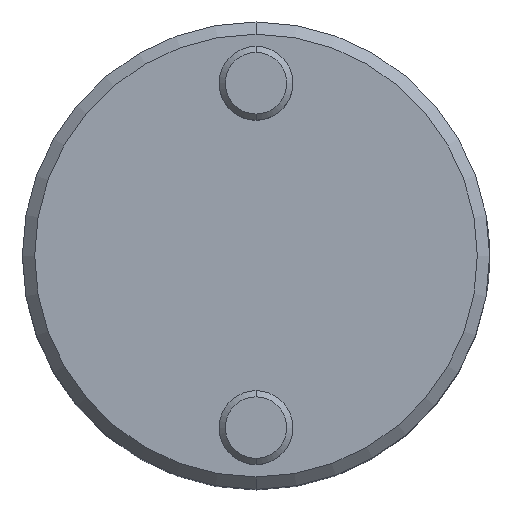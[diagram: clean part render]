
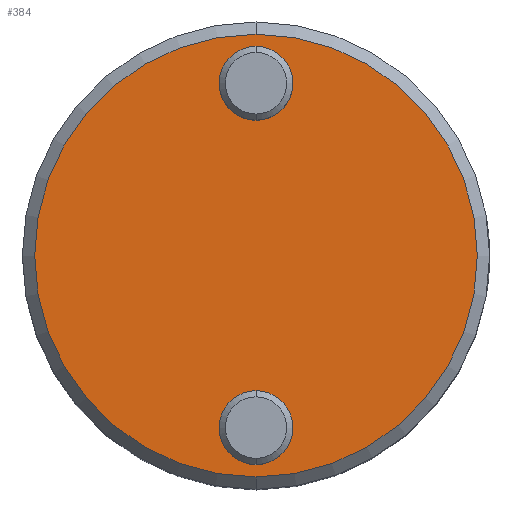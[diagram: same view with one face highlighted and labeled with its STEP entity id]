
A CAD part, top view. The second image highlights one B-rep face of the part: STEP entity #384.
In plain terms, the highlighted planar face has unit normal (0, 0, 1).
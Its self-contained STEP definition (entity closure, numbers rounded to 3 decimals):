
#1=CARTESIAN_POINT('',(0.,0.,
0.));
#2=DIRECTION('',(0.,0.,1.));
#3=DIRECTION('',(0.,1.,0.));
#4=AXIS2_PLACEMENT_3D('',#1,#2,#3);
#6=CARTESIAN_POINT('',(0.,0.,
0.));
#7=DIRECTION('',(0.,0.,1.));
#8=DIRECTION('',(0.,-1.,0.));
#9=AXIS2_PLACEMENT_3D('',#6,#7,#8);
#11=CARTESIAN_POINT('',(0.,14.,0.));
#12=DIRECTION('',(0.,0.,1.));
#13=DIRECTION('',(0.,1.,0.));
#14=AXIS2_PLACEMENT_3D('',#11,#12,#13);
#16=CARTESIAN_POINT('',(0.,14.,0.));
#17=DIRECTION('',(0.,0.,1.));
#18=DIRECTION('',(0.,-1.,0.));
#19=AXIS2_PLACEMENT_3D('',#16,#17,#18);
#21=CARTESIAN_POINT('',(0.,-14.,0.));
#22=DIRECTION('',(0.,0.,1.));
#23=DIRECTION('',(0.,1.,0.));
#24=AXIS2_PLACEMENT_3D('',#21,#22,#23);
#26=CARTESIAN_POINT('',(0.,-14.,0.));
#27=DIRECTION('',(0.,0.,1.));
#28=DIRECTION('',(0.,-1.,0.));
#29=AXIS2_PLACEMENT_3D('',#26,#27,#28);
#311=CARTESIAN_POINT('',(0.,18.,0.));
#312=CARTESIAN_POINT('',(0.,-18.,0.));
#313=VERTEX_POINT('',#311);
#314=VERTEX_POINT('',#312);
#337=CARTESIAN_POINT('',(0.,17.,0.));
#338=CARTESIAN_POINT('',(0.,11.,0.));
#339=VERTEX_POINT('',#337);
#340=VERTEX_POINT('',#338);
#341=CARTESIAN_POINT('',(0.,-11.,0.));
#342=CARTESIAN_POINT('',(0.,-17.,0.));
#343=VERTEX_POINT('',#341);
#344=VERTEX_POINT('',#342);
#361=CARTESIAN_POINT('',(0.,0.,0.));
#362=DIRECTION('',(0.,0.,-1.));
#363=DIRECTION('',(0.,-1.,0.));
#364=AXIS2_PLACEMENT_3D('',#361,#362,#363);
#365=PLANE('',#364);
#367=ORIENTED_EDGE('',*,*,#366,.F.);
#369=ORIENTED_EDGE('',*,*,#368,.F.);
#370=EDGE_LOOP('',(#367,#369));
#371=FACE_OUTER_BOUND('',#370,.F.);
#373=ORIENTED_EDGE('',*,*,#372,.T.);
#375=ORIENTED_EDGE('',*,*,#374,.T.);
#376=EDGE_LOOP('',(#373,#375));
#377=FACE_BOUND('',#376,.F.);
#379=ORIENTED_EDGE('',*,*,#378,.T.);
#381=ORIENTED_EDGE('',*,*,#380,.T.);
#382=EDGE_LOOP('',(#379,#381));
#383=FACE_BOUND('',#382,.F.);
#384=ADVANCED_FACE('',(#371,#377,#383),#365,.F.);
#5=CIRCLE('',#4,18.);
#10=CIRCLE('',#9,18.);
#15=CIRCLE('',#14,3.);
#20=CIRCLE('',#19,3.);
#25=CIRCLE('',#24,3.);
#30=CIRCLE('',#29,3.);
#366=EDGE_CURVE('',#313,#314,#5,.T.);
#368=EDGE_CURVE('',#314,#313,#10,.T.);
#372=EDGE_CURVE('',#339,#340,#15,.T.);
#374=EDGE_CURVE('',#340,#339,#20,.T.);
#378=EDGE_CURVE('',#343,#344,#25,.T.);
#380=EDGE_CURVE('',#344,#343,#30,.T.);
